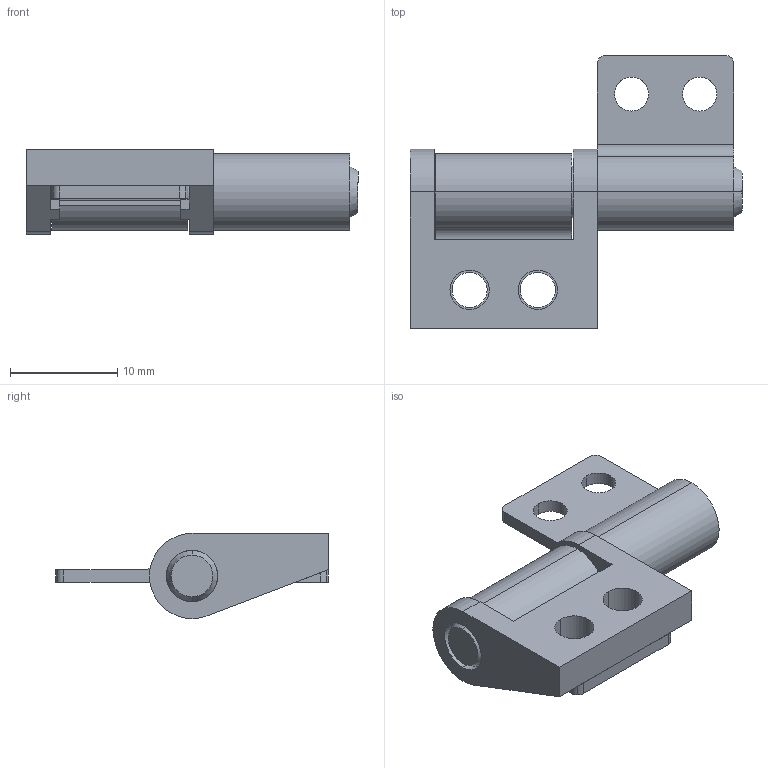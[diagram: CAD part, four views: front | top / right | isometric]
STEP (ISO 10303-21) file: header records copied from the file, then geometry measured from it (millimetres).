
FILE_DESCRIPTION(('STEP AP214'),'1');
FILE_NAME('C:/Users/HAN/Desktop/1000-0402-HNG L Rev 0_0.stp','2012-12-04T03:52:48',(' '),(' '),'Spatial InterOp 3D',' ',' ');
FILE_SCHEMA(('automotive_design'));
Length unit declared in the file: inch
Products named in the file (4): 1000-0001-HOU Rev 0_0; 1000-0001-BND Rev 0_0; 1000-0004-SHA Rev 0_0
Bounding box: 30.91 x 25.4 x 7.92 mm (x, y, z)
Volume: 1981.3 mm3; surface area: 2897.6 mm2
Topology: 4 solids, 4 shells, 82 faces, 216 edges, 142 vertices
Faces by surface type: cylinder 46, plane 32, cone 4
Entity records: 3317 total; most frequent: DIRECTION 484, CARTESIAN_POINT 444, ORIENTED_EDGE 432, EDGE_CURVE 216, AXIS2_PLACEMENT_3D 182, VERTEX_POINT 142, LINE 120, VECTOR 120
